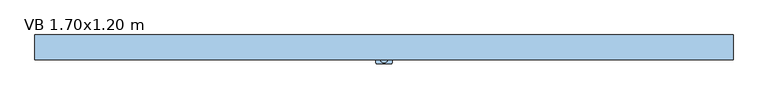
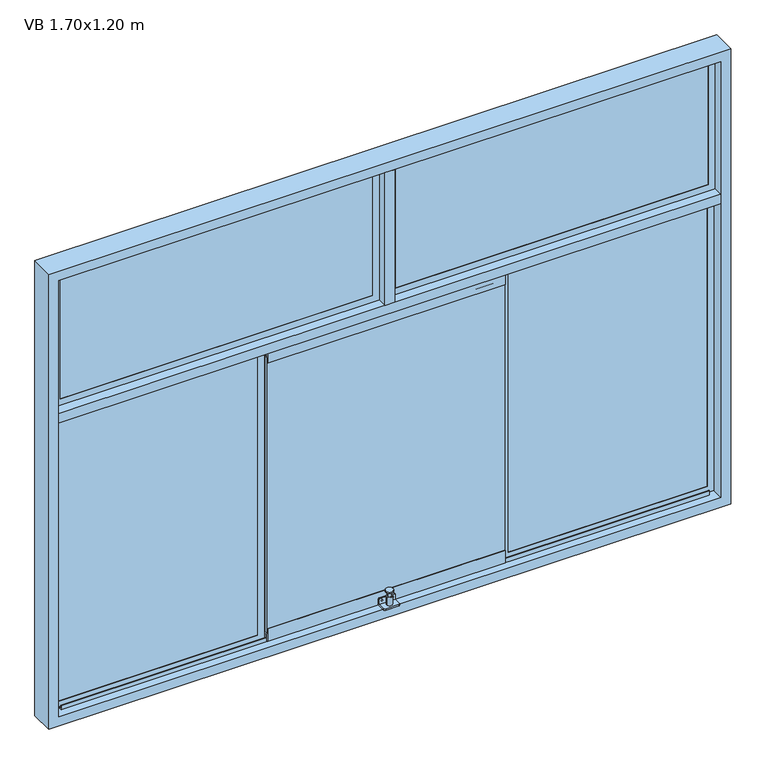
"""IFC4 building model written with IfcOpenShell, lengths in millimetres: window geometry, Ventana baja corrediza 3 cuerpos : VB 1.70x1.20 m."""

from ifc_helpers import new_model, si_unit, point, frame, frame_2d, origin, place, context, project, spatial, polyline, circle_curve, trimmed, segment, composite_curve, outline, extrude, faceted_brep, source, transform, mapped, element, save


def vb_1_70x1_20_m_a559326e(model_context):
    return source(origin(), model_context, "Body", "SolidModel", [
        extrude(outline(composite_curve([segment(trimmed(circle_curve(frame_2d((0.0, -28.2738075)), 9.1519646), [point((9.1519646, -28.2738075))], [point((-9.1519646, -28.2738075))], False, "CARTESIAN"), True, "CONTINUOUS"), segment(trimmed(circle_curve(frame_2d((0.0, -28.2738075)), 9.1519646), [point((-9.1519646, -28.2738075))], [point((9.1519646, -28.2738075))], False, "CARTESIAN"), True, "CONTINUOUS")], self_intersect=False)), frame((0.0, 0.0, 966.1518437), z_axis=(0.0, 0.0, 1.0), x_axis=(1.0, 0.0, 0.0)), (0.0, 0.0, 1.0), 3.4852564),
        extrude(outline(composite_curve([segment(trimmed(circle_curve(frame_2d((0.0, -28.2738075)), 4.1308937), [point((4.1308937, -28.2738075))], [point((-4.1308937, -28.2738075))], False, "CARTESIAN"), True, "CONTINUOUS"), segment(trimmed(circle_curve(frame_2d((0.0, -28.2738075)), 4.1308937), [point((-4.1308937, -28.2738075))], [point((4.1308937, -28.2738075))], False, "CARTESIAN"), True, "CONTINUOUS")], self_intersect=False)), frame((0.0, 0.0, 953.913316), z_axis=(0.0, 0.0, 1.0), x_axis=(1.0, 0.0, 0.0)), (0.0, 0.0, 1.0), 12.2385277),
        extrude(outline(composite_curve([segment(trimmed(circle_curve(frame_2d((0.0, -28.2738075)), 7.026694), [point((7.026694, -28.2738075))], [point((-7.026694, -28.2738075))], False, "CARTESIAN"), True, "CONTINUOUS"), segment(trimmed(circle_curve(frame_2d((0.0, -28.2738075)), 7.026694), [point((-7.026694, -28.2738075))], [point((7.026694, -28.2738075))], False, "CARTESIAN"), True, "CONTINUOUS")], self_intersect=False)), frame((0.0, 0.0, 932.1776083), z_axis=(0.0, 0.0, 1.0), x_axis=(1.0, 0.0, 0.0)), (0.0, 0.0, 1.0), 21.7357077),
        extrude(outline(composite_curve([segment(trimmed(circle_curve(frame_2d((945.1933283, 18.01572)), 1.98428), [point((945.1933283, 20.0))], [point((947.1776083, 18.01572))], False, "CARTESIAN"), True, "CONTINUOUS"), segment(polyline([(947.1776083, 18.01572), (947.1776083, -18.01572)]), True, "CONTINUOUS"), segment(trimmed(circle_curve(frame_2d((945.1933283, -18.01572)), 1.98428), [point((947.1776083, -18.01572))], [point((945.1933283, -20.0))], False, "CARTESIAN"), True, "CONTINUOUS"), segment(polyline([(945.1933283, -20.0), (932.1776083, -20.0), (932.1776083, 20.0), (945.1933283, 20.0)]), True, "CONTINUOUS")], self_intersect=False), holes=[composite_curve([segment(trimmed(circle_curve(frame_2d((940.5771467, 13.3353779)), 1.6750611), [point((940.5771467, 15.0104391))], [point((940.5771467, 11.6603168))], True, "CARTESIAN"), True, "CONTINUOUS"), segment(trimmed(circle_curve(frame_2d((940.5771467, 13.3353779)), 1.6750611), [point((940.5771467, 11.6603168))], [point((940.5771467, 15.0104391))], True, "CARTESIAN"), True, "CONTINUOUS")], self_intersect=False), composite_curve([segment(trimmed(circle_curve(frame_2d((940.5771467, -13.3353779)), 1.6750611), [point((940.5771467, -15.0104391))], [point((940.5771467, -11.6603168))], True, "CARTESIAN"), True, "CONTINUOUS"), segment(trimmed(circle_curve(frame_2d((940.5771467, -13.3353779)), 1.6750611), [point((940.5771467, -11.6603168))], [point((940.5771467, -15.0104391))], True, "CARTESIAN"), True, "CONTINUOUS")], self_intersect=False)]), frame((0.0, -19.1218429, 0.0), z_axis=(0.0, 1.0, 0.0), x_axis=(0.0, 0.0, 1.0)), (0.0, 0.0, 1.0), 4.012039),
        extrude(outline(composite_curve([segment(polyline([(-20.0, -15.1098039), (20.0, -15.1098039), (20.0, -36.2721359)]), True, "CONTINUOUS"), segment(trimmed(circle_curve(frame_2d((16.1623319, -36.2721359)), 3.8376681), [point((20.0, -36.2721359))], [point((16.1623319, -40.1098039))], False, "CARTESIAN"), True, "CONTINUOUS"), segment(polyline([(16.1623319, -40.1098039), (-16.1623319, -40.1098039)]), True, "CONTINUOUS"), segment(trimmed(circle_curve(frame_2d((-16.1623319, -36.2721359)), 3.8376681), [point((-16.1623319, -40.1098039))], [point((-20.0, -36.2721359))], False, "CARTESIAN"), True, "CONTINUOUS"), segment(polyline([(-20.0, -36.2721359), (-20.0, -15.1098039)]), True, "CONTINUOUS")], self_intersect=False)), frame((0.0, 0.0, 928.6104688), z_axis=(0.0, 0.0, 1.0), x_axis=(1.0, 0.0, 0.0)), (0.0, 0.0, 1.0), 3.5671395),
        extrude(outline(polyline([(-295.8333333, -13.9001865), (-295.8333333, -4.4001865), (295.8333333, -4.4001865), (295.8333333, -13.9001865), (-295.8333333, -13.9001865)])), frame((0.0, 0.0, 948.9759668), z_axis=(0.0, 0.0, 1.0), x_axis=(1.0, 0.0, 0.0)), (0.0, 0.0, 1.0), 727.0480665),
        extrude(outline(polyline([(-299.4270833, 1.2096174), (-821.40625, 1.2096174), (-821.40625, 10.7096174), (-299.4270833, 10.7096174), (-299.4270833, 1.2096174)])), frame((0.0, 0.0, 928.59375), z_axis=(0.0, 0.0, 1.0), x_axis=(1.0, 0.0, 0.0)), (0.0, 0.0, 1.0), 767.8125),
        extrude(outline(polyline([(821.40625, 1.2096174), (299.4270833, 1.2096174), (299.4270833, 10.7096174), (821.40625, 10.7096174), (821.40625, 1.2096174)])), frame((0.0, 0.0, 928.59375), z_axis=(0.0, 0.0, 1.0), x_axis=(1.0, 0.0, 0.0)), (0.0, 0.0, 1.0), 767.8125),
        extrude(outline(polyline([(-16.09375, -4.75), (-821.40625, -4.75), (-821.40625, 4.75), (-16.09375, 4.75), (-16.09375, -4.75)])), frame((0.0, 0.0, 1728.59375), z_axis=(0.0, 0.0, 1.0), x_axis=(1.0, 0.0, 0.0)), (0.0, 0.0, 1.0), 342.8125),
        extrude(outline(polyline([(821.40625, -4.75), (16.09375, -4.75), (16.09375, 4.75), (821.40625, 4.75), (821.40625, -4.75)])), frame((0.0, 0.0, 1728.59375), z_axis=(0.0, 0.0, 1.0), x_axis=(1.0, 0.0, 0.0)), (0.0, 0.0, 1.0), 342.8125),
        extrude(outline(composite_curve([segment(polyline([(-10.2821926, 1700.0), (0.0, 1700.0), (0.0, 1697.9830324), (-8.0182357, 1697.9830324), (-8.0182357, 1689.1628008)]), True, "CONTINUOUS"), segment(trimmed(circle_curve(frame_2d((-9.1502142, 1689.8593269)), 1.3291064), [point((-8.0182357, 1689.1628008))], [point((-10.2821926, 1689.1628008))], False, "CARTESIAN"), True, "CONTINUOUS"), segment(polyline([(-10.2821926, 1689.1628008), (-10.2821926, 1700.0)]), True, "CONTINUOUS")], self_intersect=False)), frame((-808.2282521, 0.0, 0.0), z_axis=(1.0, 0.0, 0.0), x_axis=(0.0, 1.0, 0.0)), (0.0, 0.0, 1.0), 1616.4565041),
        extrude(outline(polyline([(-12.0251865, 1679.6177832), (-6.2751865, 1679.6177832), (-6.2751865, 1696.3895312), (-3.190569, 1696.3895312), (-3.190569, 1662.8460353), (-4.4001865, 1662.8460353), (-4.4001865, 1676.0240332), (-13.9001865, 1676.0240332), (-13.9001865, 1662.8460353), (-15.1098039, 1662.8460353), (-15.1098039, 1696.3895312), (-12.0251865, 1696.3895312), (-12.0251865, 1679.6177832)])), frame((-295.8333333, 0.0, 0.0), z_axis=(1.0, 0.0, 0.0), x_axis=(0.0, 1.0, 0.0)), (0.0, 0.0, 1.0), 591.6666667),
        extrude(outline(polyline([(-6.9867702, 1680.2900719), (-9.1501865, 1682.4534882), (-11.3136028, 1680.2900719), (-11.3136028, 1689.8233667), (-9.1501865, 1687.6599504), (-6.9867702, 1689.8233667), (-6.9867702, 1680.2900719)])), frame((-295.8333333, 0.0, 0.0), z_axis=(1.0, 0.0, 0.0), x_axis=(0.0, 1.0, 0.0)), (0.0, 0.0, 1.0), 591.6666667),
        faceted_brep([(-312.6050813, 0.0, 1683.2282521), (-312.6050813, 1.2096174, 1683.2282521), (-312.6050813, 1.2096174, 941.7717479), (-312.6050813, 0.0, 941.7717479), (-299.4270833, 1.2096174, 1696.40625), (-299.4270833, 10.7096174, 1696.40625), (-299.4270833, 10.7096174, 928.59375), (-299.4270833, 1.2096174, 928.59375), (-312.6050813, 10.7096174, 1683.2282521), (-312.6050813, 11.9192349, 1683.2282521), (-312.6050813, 11.9192349, 941.7717479), (-312.6050813, 10.7096174, 941.7717479), (-295.8333333, 11.9192349, 1700.0), (-295.8333333, 0.0, 1700.0), (-295.8333333, 0.0, 925.0), (-295.8333333, 11.9192349, 925.0), (-808.2282521, 1.2096174, 941.7717479), (-808.2282521, 0.0, 941.7717479), (-821.40625, 10.7096174, 928.59375), (-821.40625, 1.2096174, 928.59375), (-808.2282521, 11.9192349, 941.7717479), (-808.2282521, 10.7096174, 941.7717479), (-825.0, 0.0, 925.0), (-825.0, 11.9192349, 925.0), (-808.2282521, 1.2096174, 1683.2282521), (-808.2282521, 0.0, 1683.2282521), (-821.40625, 10.7096174, 1696.40625), (-821.40625, 1.2096174, 1696.40625), (-808.2282521, 11.9192349, 1683.2282521), (-808.2282521, 10.7096174, 1683.2282521), (-825.0, 0.0, 1700.0), (-825.0, 11.9192349, 1700.0)], [[[0, 1, 2, 3]], [[4, 5, 6, 7]], [[8, 9, 10, 11]], [[12, 13, 14, 15]], [[3, 2, 16, 17]], [[7, 6, 18, 19]], [[11, 10, 20, 21]], [[15, 14, 22, 23]], [[17, 16, 24, 25]], [[19, 18, 26, 27]], [[21, 20, 28, 29]], [[23, 22, 30, 31]], [[13, 30, 22, 14], [3, 17, 25, 0]], [[25, 24, 1, 0]], [[7, 19, 27, 4], [1, 24, 16, 2]], [[27, 26, 5, 4]], [[5, 26, 18, 6], [11, 21, 29, 8]], [[29, 28, 9, 8]], [[15, 23, 31, 12], [9, 28, 20, 10]], [[31, 30, 13, 12]]]),
        faceted_brep([(312.6050813, 1.2096174, 1683.2282521), (312.6050813, 0.0, 1683.2282521), (312.6050813, 0.0, 941.7717479), (312.6050813, 1.2096174, 941.7717479), (299.4270833, 10.7096174, 1696.40625), (299.4270833, 1.2096174, 1696.40625), (299.4270833, 1.2096174, 928.59375), (299.4270833, 10.7096174, 928.59375), (312.6050813, 11.9192349, 1683.2282521), (312.6050813, 10.7096174, 1683.2282521), (312.6050813, 10.7096174, 941.7717479), (312.6050813, 11.9192349, 941.7717479), (295.8333333, 0.0, 1700.0), (295.8333333, 11.9192349, 1700.0), (295.8333333, 11.9192349, 925.0), (295.8333333, 0.0, 925.0), (808.2282521, 0.0, 941.7717479), (808.2282521, 1.2096174, 941.7717479), (821.40625, 1.2096174, 928.59375), (821.40625, 10.7096174, 928.59375), (808.2282521, 10.7096174, 941.7717479), (808.2282521, 11.9192349, 941.7717479), (825.0, 11.9192349, 925.0), (825.0, 0.0, 925.0), (808.2282521, 0.0, 1683.2282521), (808.2282521, 1.2096174, 1683.2282521), (821.40625, 1.2096174, 1696.40625), (821.40625, 10.7096174, 1696.40625), (808.2282521, 10.7096174, 1683.2282521), (808.2282521, 11.9192349, 1683.2282521), (825.0, 11.9192349, 1700.0), (825.0, 0.0, 1700.0)], [[[0, 1, 2, 3]], [[4, 5, 6, 7]], [[8, 9, 10, 11]], [[12, 13, 14, 15]], [[3, 2, 16, 17]], [[7, 6, 18, 19]], [[11, 10, 20, 21]], [[15, 14, 22, 23]], [[17, 16, 24, 25]], [[19, 18, 26, 27]], [[21, 20, 28, 29]], [[23, 22, 30, 31]], [[15, 23, 31, 12], [1, 24, 16, 2]], [[25, 24, 1, 0]], [[5, 26, 18, 6], [3, 17, 25, 0]], [[27, 26, 5, 4]], [[7, 19, 27, 4], [9, 28, 20, 10]], [[29, 28, 9, 8]], [[13, 30, 22, 14], [11, 21, 29, 8]], [[31, 30, 13, 12]]]),
        faceted_brep([(-825.0, -5.9596174, 2075.0), (-825.0, 5.9596174, 2075.0), (-825.0, 5.9596174, 1725.0), (-825.0, -5.9596174, 1725.0), (-808.2282521, -4.75, 2058.2282521), (-808.2282521, -5.9596174, 2058.2282521), (-808.2282521, -5.9596174, 1741.7717479), (-808.2282521, -4.75, 1741.7717479), (-821.40625, 4.75, 2071.40625), (-821.40625, -4.75, 2071.40625), (-821.40625, -4.75, 1728.59375), (-821.40625, 4.75, 1728.59375), (-808.2282521, 5.9596174, 2058.2282521), (-808.2282521, 4.75, 2058.2282521), (-808.2282521, 4.75, 1741.7717479), (-808.2282521, 5.9596174, 1741.7717479), (-12.5, 5.9596174, 1725.0), (-12.5, -5.9596174, 1725.0), (-29.2717479, -5.9596174, 1741.7717479), (-29.2717479, -4.75, 1741.7717479), (-16.09375, -4.75, 1728.59375), (-16.09375, 4.75, 1728.59375), (-29.2717479, 4.75, 1741.7717479), (-29.2717479, 5.9596174, 1741.7717479), (-12.5, 5.9596174, 2075.0), (-12.5, -5.9596174, 2075.0), (-29.2717479, -5.9596174, 2058.2282521), (-29.2717479, -4.75, 2058.2282521), (-16.09375, -4.75, 2071.40625), (-16.09375, 4.75, 2071.40625), (-29.2717479, 4.75, 2058.2282521), (-29.2717479, 5.9596174, 2058.2282521)], [[[0, 1, 2, 3]], [[4, 5, 6, 7]], [[8, 9, 10, 11]], [[12, 13, 14, 15]], [[3, 2, 16, 17]], [[7, 6, 18, 19]], [[11, 10, 20, 21]], [[15, 14, 22, 23]], [[17, 16, 24, 25]], [[19, 18, 26, 27]], [[21, 20, 28, 29]], [[23, 22, 30, 31]], [[25, 24, 1, 0]], [[3, 17, 25, 0], [5, 26, 18, 6]], [[27, 26, 5, 4]], [[9, 28, 20, 10], [7, 19, 27, 4]], [[29, 28, 9, 8]], [[11, 21, 29, 8], [13, 30, 22, 14]], [[31, 30, 13, 12]], [[1, 24, 16, 2], [15, 23, 31, 12]]]),
        faceted_brep([(16.09375, 4.75, 2071.40625), (16.09375, -4.75, 2071.40625), (16.09375, -4.75, 1728.59375), (16.09375, 4.75, 1728.59375), (29.2717479, 5.9596174, 2058.2282521), (29.2717479, 4.75, 2058.2282521), (29.2717479, 4.75, 1741.7717479), (29.2717479, 5.9596174, 1741.7717479), (12.5, -5.9596174, 2075.0), (12.5, 5.9596174, 2075.0), (12.5, 5.9596174, 1725.0), (12.5, -5.9596174, 1725.0), (29.2717479, -4.75, 2058.2282521), (29.2717479, -5.9596174, 2058.2282521), (29.2717479, -5.9596174, 1741.7717479), (29.2717479, -4.75, 1741.7717479), (821.40625, -4.75, 1728.59375), (821.40625, 4.75, 1728.59375), (808.2282521, 4.75, 1741.7717479), (808.2282521, 5.9596174, 1741.7717479), (825.0, 5.9596174, 1725.0), (825.0, -5.9596174, 1725.0), (808.2282521, -5.9596174, 1741.7717479), (808.2282521, -4.75, 1741.7717479), (821.40625, -4.75, 2071.40625), (821.40625, 4.75, 2071.40625), (808.2282521, 4.75, 2058.2282521), (808.2282521, 5.9596174, 2058.2282521), (825.0, 5.9596174, 2075.0), (825.0, -5.9596174, 2075.0), (808.2282521, -5.9596174, 2058.2282521), (808.2282521, -4.75, 2058.2282521)], [[[0, 1, 2, 3]], [[4, 5, 6, 7]], [[8, 9, 10, 11]], [[12, 13, 14, 15]], [[3, 2, 16, 17]], [[7, 6, 18, 19]], [[11, 10, 20, 21]], [[15, 14, 22, 23]], [[17, 16, 24, 25]], [[19, 18, 26, 27]], [[21, 20, 28, 29]], [[23, 22, 30, 31]], [[25, 24, 1, 0]], [[3, 17, 25, 0], [5, 26, 18, 6]], [[27, 26, 5, 4]], [[9, 28, 20, 10], [7, 19, 27, 4]], [[29, 28, 9, 8]], [[11, 21, 29, 8], [13, 30, 22, 14]], [[31, 30, 13, 12]], [[1, 24, 16, 2], [15, 23, 31, 12]]]),
        extrude(outline(polyline([(12.5, -30.15), (-12.5, -30.15), (-12.5, 30.15), (12.5, 30.15), (12.5, -30.15)])), frame((0.0, 0.0, 1725.0), z_axis=(0.0, 0.0, 1.0), x_axis=(1.0, 0.0, 0.0)), (0.0, 0.0, 1.0), 350.0),
        extrude(outline(polyline([(-270.8333333, 0.0), (-295.8333333, 0.0), (-295.8333333, 30.15), (-270.8333333, 30.15), (-270.8333333, 0.0)])), frame((0.0, 0.0, 925.0), z_axis=(0.0, 0.0, 1.0), x_axis=(1.0, 0.0, 0.0)), (0.0, 0.0, 1.0), 775.0),
        extrude(outline(polyline([(295.8333333, 0.0), (270.8333333, 0.0), (270.8333333, 30.15), (295.8333333, 30.15), (295.8333333, 0.0)])), frame((0.0, 0.0, 925.0), z_axis=(0.0, 0.0, 1.0), x_axis=(1.0, 0.0, 0.0)), (0.0, 0.0, 1.0), 775.0),
        extrude(outline(polyline([(825.0, 30.15), (825.0, -30.15), (-825.0, -30.15), (-825.0, 30.15), (825.0, 30.15)])), frame((0.0, 0.0, 1700.0), z_axis=(0.0, 0.0, 1.0), x_axis=(1.0, 0.0, 0.0)), (0.0, 0.0, 1.0), 25.0),
        extrude(outline(polyline([(900.0, -850.0), (900.0, 850.0), (2100.0, 850.0), (2100.0, -850.0), (900.0, -850.0)]), holes=[polyline([(2075.0, -825.0), (2075.0, 825.0), (925.0, 825.0), (925.0, -825.0), (2075.0, -825.0)])]), frame((0.0, -30.15, 0.0), z_axis=(0.0, 1.0, 0.0), x_axis=(0.0, 0.0, 1.0)), (0.0, 0.0, 1.0), 60.3),
        extrude(outline(polyline([(-3.190569, 962.1539647), (-3.190569, 928.6104688), (-6.2751865, 928.6104688), (-6.2751865, 945.3822168), (-12.0251865, 945.3822168), (-12.0251865, 928.6104688), (-15.1098039, 928.6104688), (-15.1098039, 962.1539647), (-13.9001865, 962.1539647), (-13.9001865, 948.9759668), (-4.4001865, 948.9759668), (-4.4001865, 962.1539647), (-3.190569, 962.1539647)])), frame((-295.8333333, 0.0, 0.0), z_axis=(1.0, 0.0, 0.0), x_axis=(0.0, 1.0, 0.0)), (0.0, 0.0, 1.0), 591.6666667),
        extrude(outline(polyline([(-9.1501865, 942.5465118), (-6.9867702, 944.7099281), (-6.9867702, 935.1766333), (-9.1501865, 937.3400496), (-11.3136028, 935.1766333), (-11.3136028, 944.7099281), (-9.1501865, 942.5465118)])), frame((-295.8333333, 0.0, 0.0), z_axis=(1.0, 0.0, 0.0), x_axis=(0.0, 1.0, 0.0)), (0.0, 0.0, 1.0), 591.6666667),
        extrude(outline(composite_curve([segment(polyline([(-10.2821926, 925.0), (-10.2821926, 935.8371992)]), True, "CONTINUOUS"), segment(trimmed(circle_curve(frame_2d((-9.1502142, 935.1406731)), 1.3291064), [point((-10.2821926, 935.8371992))], [point((-8.0182357, 935.8371992))], False, "CARTESIAN"), True, "CONTINUOUS"), segment(polyline([(-8.0182357, 935.8371992), (-8.0182357, 927.0169676), (0.0, 927.0169676), (0.0, 925.0), (-10.2821926, 925.0)]), True, "CONTINUOUS")], self_intersect=False)), frame((-808.2282521, 0.0, 0.0), z_axis=(1.0, 0.0, 0.0), x_axis=(0.0, 1.0, 0.0)), (0.0, 0.0, 1.0), 1616.4565041),
    ])


if __name__ == "__main__":
    model = new_model("IFC4")
    model_context = context("Model", 3, world=origin())
    ifc_project = project(units=[si_unit("LENGTHUNIT", "METRE", prefix="MILLI")], contexts=[model_context])
    site = spatial("IfcSite", under=ifc_project)
    building = spatial("IfcBuilding", under=site)
    placement = place(None, origin())
    vb_1_70x1_20_m_shape = vb_1_70x1_20_m_a559326e(model_context)
    element("IfcWindow", 1, ObjectType="Ventana baja corrediza 3 cuerpos : VB 1.70x1.20 m", at=placement, inside=building, context=model_context, shape_type="MappedRepresentation", body=[
        mapped(vb_1_70x1_20_m_shape, transform((0.0, 0.0, 0.0), x_axis=(1.0, 0.0, 0.0), y_axis=(0.0, 1.0, 0.0), z_axis=(0.0, 0.0, 1.0))),
    ])
    save(model, "model.ifc")
